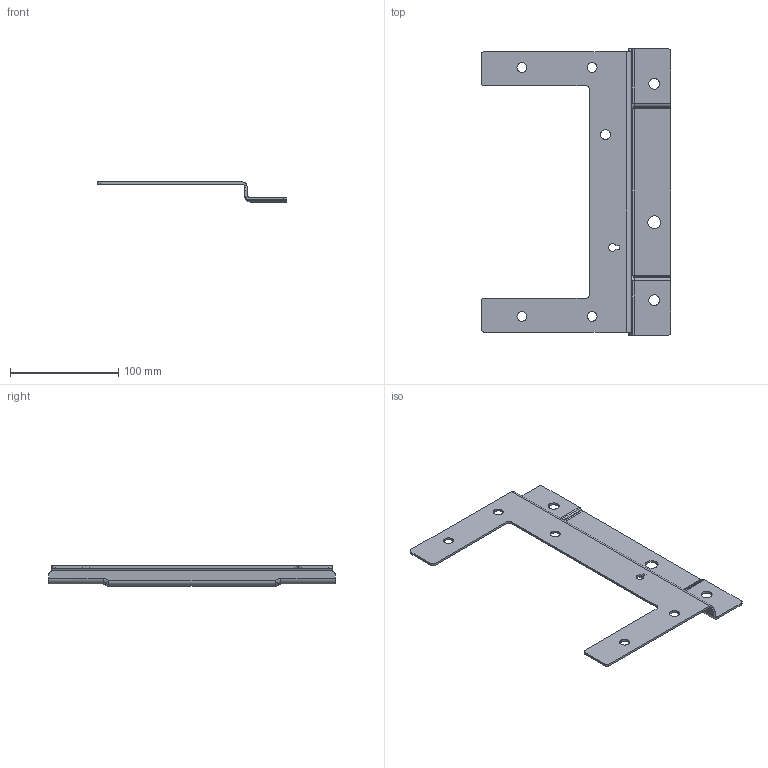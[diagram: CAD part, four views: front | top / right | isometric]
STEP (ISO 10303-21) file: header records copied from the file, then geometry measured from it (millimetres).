
FILE_DESCRIPTION(('CATIA V5 STEP Exchange'),'2;1');
FILE_NAME('F:\福田A6\1-数据\6-冻结数据\第九批\设变\静电导线设变\SHT0015987 中宽车底部支架焊接总成\改后数据\SHT0016189-中宽车主驾驶后侧钣金\SHT0016189-20241101.stp','2024-11-01T06:55:18+00:00',('none'),('none'),'CATIA Version 5 Release 20 GA (IN-10)','CATIA V5 STEP AP203','none');
FILE_SCHEMA(('CONFIG_CONTROL_DESIGN'));
Length unit declared in the file: millimetre
Products named in the file (1): SHT0016189
Bounding box: 175.39 x 264.82 x 18.6 mm (x, y, z)
Volume: 57507.6 mm3; surface area: 60229 mm2
Topology: 1 solids, 1 shells, 88 faces, 258 edges, 166 vertices
Faces by surface type: cylinder 55, plane 23, sphere 6, torus 4
Entity records: 2900 total; most frequent: CARTESIAN_POINT 607, ORIENTED_EDGE 504, DIRECTION 385, EDGE_CURVE 252, AXIS2_PLACEMENT_3D 186, VERTEX_POINT 166, VECTOR 126, LINE 126
